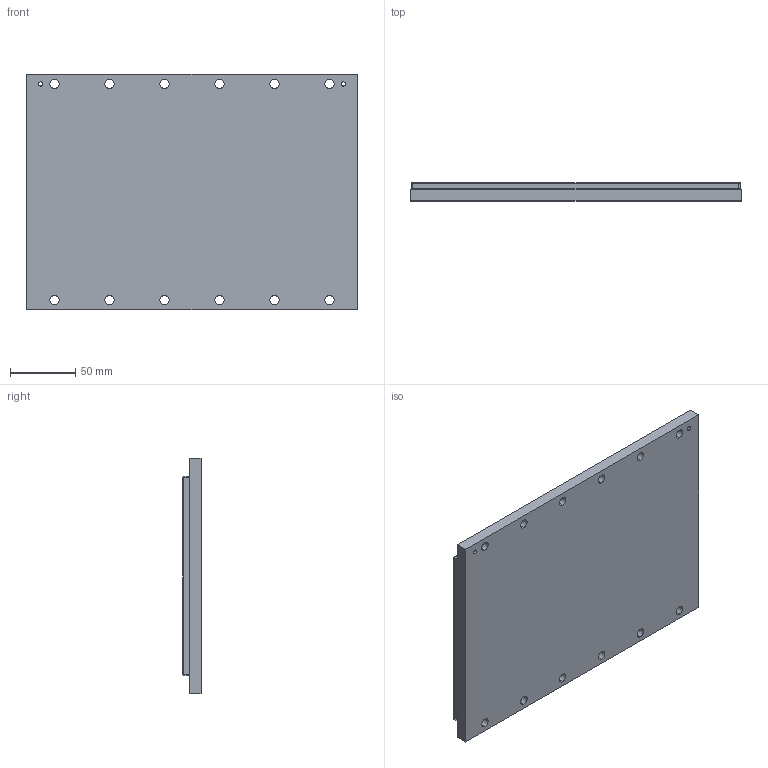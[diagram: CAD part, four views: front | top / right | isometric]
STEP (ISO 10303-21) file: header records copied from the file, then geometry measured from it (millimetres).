
FILE_DESCRIPTION (( 'STEP AP214' ), '1' );
FILE_NAME ('PIXM350-180-TL252-C.step', '2021-11-01T10:03:01', ( '' ), ( '' ), 'SwSTEP 2.0', 'SolidWorks 2020', '' );
FILE_SCHEMA (( 'AUTOMOTIVE_DESIGN' ));
Length unit declared in the file: millimetre
Products named in the file (1): PIXM350-180-TL252-C
Bounding box: 252 x 13.8 x 180 mm (x, y, z)
Volume: 581930.3 mm3; surface area: 258839.2 mm2
Topology: 3 solids, 3 shells, 109 faces, 254 edges, 164 vertices
Faces by surface type: cylinder 56, plane 53
Entity records: 4439 total; most frequent: DIRECTION 586, CARTESIAN_POINT 528, ORIENTED_EDGE 508, EDGE_CURVE 254, AXIS2_PLACEMENT_3D 222, VERTEX_POINT 164, EDGE_LOOP 150, VECTOR 142
